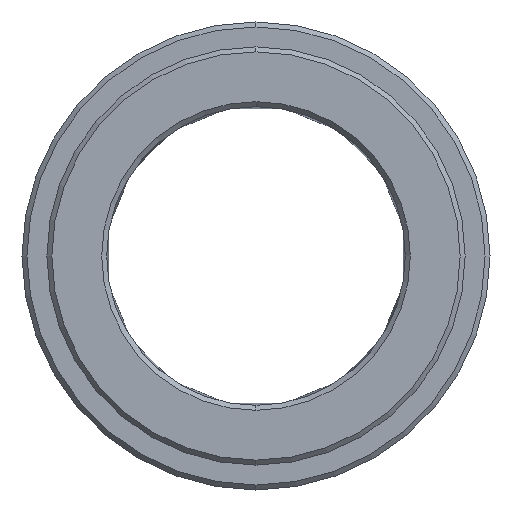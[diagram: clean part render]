
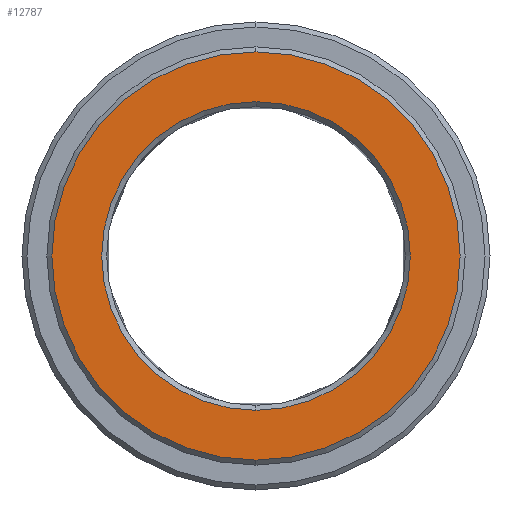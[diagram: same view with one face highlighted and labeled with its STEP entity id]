
A CAD part, left-side view. The second image highlights one B-rep face of the part: STEP entity #12787.
In plain terms, the highlighted planar face has unit normal (-1, 0, 0).
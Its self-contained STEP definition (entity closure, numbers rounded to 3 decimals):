
#8578=CARTESIAN_POINT('',(-8.,0.,0.));
#8579=DIRECTION('',(1.,0.,0.));
#8580=DIRECTION('',(0.,0.,-1.));
#8581=AXIS2_PLACEMENT_3D('',#8578,#8579,#8580);
#8583=CARTESIAN_POINT('',(-8.,0.,
0.));
#8584=DIRECTION('',(1.,0.,0.));
#8585=DIRECTION('',(0.,0.,1.));
#8586=AXIS2_PLACEMENT_3D('',#8583,#8584,#8585);
#8588=CARTESIAN_POINT('',(-8.,0.,
0.));
#8589=DIRECTION('',(1.,0.,0.));
#8590=DIRECTION('',(0.,0.,1.));
#8591=AXIS2_PLACEMENT_3D('',#8588,#8589,#8590);
#8593=CARTESIAN_POINT('',(-8.,0.,0.));
#8594=DIRECTION('',(1.,0.,0.));
#8595=DIRECTION('',(0.,0.,-1.));
#8596=AXIS2_PLACEMENT_3D('',#8593,#8594,#8595);
#9126=CARTESIAN_POINT('',(-8.,0.,15.5));
#9127=CARTESIAN_POINT('',(-8.,0.,-15.5));
#9128=VERTEX_POINT('',#9126);
#9129=VERTEX_POINT('',#9127);
#9134=CARTESIAN_POINT('',(-8.,0.,-20.5));
#9135=CARTESIAN_POINT('',(-8.,0.,20.5));
#9136=VERTEX_POINT('',#9134);
#9137=VERTEX_POINT('',#9135);
#12772=CARTESIAN_POINT('',(-8.,0.,0.));
#12773=DIRECTION('',(1.,0.,0.));
#12774=DIRECTION('',(0.,0.,1.));
#12775=AXIS2_PLACEMENT_3D('',#12772,#12773,#12774);
#12776=PLANE('',#12775);
#12777=ORIENTED_EDGE('',*,*,#12754,.T.);
#12778=ORIENTED_EDGE('',*,*,#12739,.T.);
#12779=EDGE_LOOP('',(#12777,#12778));
#12780=FACE_OUTER_BOUND('',#12779,.F.);
#12782=ORIENTED_EDGE('',*,*,#12781,.F.);
#12784=ORIENTED_EDGE('',*,*,#12783,.F.);
#12785=EDGE_LOOP('',(#12782,#12784));
#12786=FACE_BOUND('',#12785,.F.);
#12787=ADVANCED_FACE('',(#12780,#12786),#12776,.F.);
#8582=CIRCLE('',#8581,20.5);
#8587=CIRCLE('',#8586,20.5);
#8592=CIRCLE('',#8591,15.5);
#8597=CIRCLE('',#8596,15.5);
#12739=EDGE_CURVE('',#9137,#9136,#8587,.T.);
#12754=EDGE_CURVE('',#9136,#9137,#8582,.T.);
#12781=EDGE_CURVE('',#9128,#9129,#8592,.T.);
#12783=EDGE_CURVE('',#9129,#9128,#8597,.T.);
